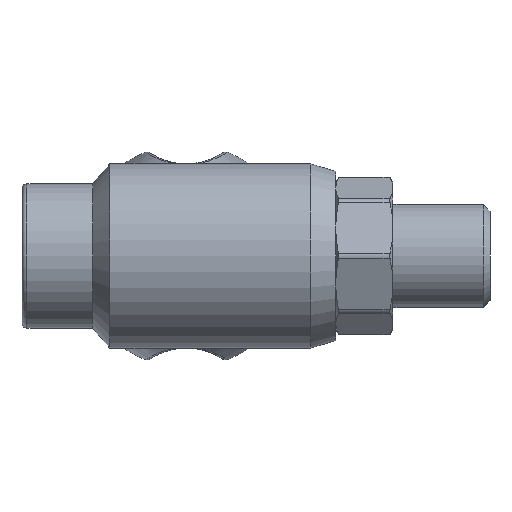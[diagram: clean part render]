
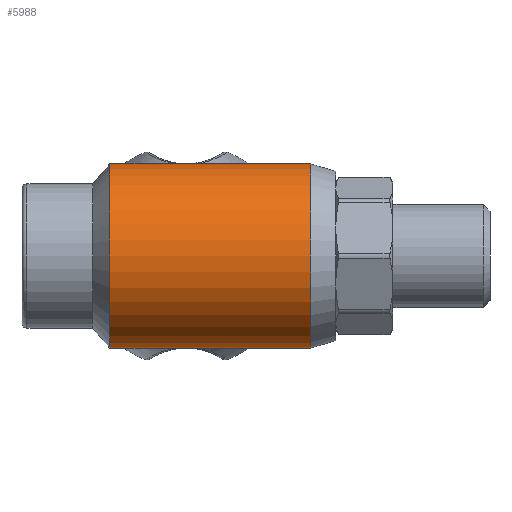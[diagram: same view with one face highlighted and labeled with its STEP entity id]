
A CAD part, front view. The second image highlights one B-rep face of the part: STEP entity #5988.
In plain terms, the highlighted cylindrical face has radius 18.5 mm (diameter 37 mm), a full revolution.
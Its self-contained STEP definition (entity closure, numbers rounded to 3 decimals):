
#813=LINE('',#12136,#1269);
#814=LINE('',#12167,#1270);
#1269=VECTOR('',#8021,18.5);
#1270=VECTOR('',#8022,18.5);
#1334=CYLINDRICAL_SURFACE('',#6522,18.5);
#1438=B_SPLINE_CURVE_WITH_KNOTS('',3,(#12138,#12139,#12140,#12141,#12142,
#12143,#12144,#12145,#12146,#12147,#12148,#12149,#12150,#12151),
 .UNSPECIFIED.,.F.,.F.,(4,2,2,2,2,2,4),(6.994,7.282,
7.569,8.144,8.735,9.03,9.326),
 .UNSPECIFIED.);
#1439=B_SPLINE_CURVE_WITH_KNOTS('',3,(#12153,#12154,#12155,#12156,#12157,
#12158,#12159,#12160,#12161,#12162,#12163,#12164,#12165,#12166),
 .UNSPECIFIED.,.F.,.F.,(4,2,2,2,2,2,4),(0.,0.295,0.591,
1.182,1.757,2.044,2.331),
 .UNSPECIFIED.);
#1440=B_SPLINE_CURVE_WITH_KNOTS('',3,(#12168,#12169,#12170,#12171,#12172,
#12173,#12174,#12175,#12176,#12177,#12178,#12179,#12180,#12181,#12182,#12183,
#12184,#12185,#12186,#12187,#12188,#12189,#12190,#12191,#12192,#12193),
 .UNSPECIFIED.,.F.,.F.,(4,2,2,2,2,2,2,2,2,2,2,2,4),(2.331,2.619,
2.906,3.481,4.072,4.367,4.663,
4.958,5.254,5.845,6.419,6.707,
6.994),.UNSPECIFIED.);
#1732=FACE_OUTER_BOUND('',#2108,.T.);
#2108=EDGE_LOOP('',(#5442,#5443,#5444,#5445,#5446,#5447,#5448,#5449,#5450,
#5451,#5452));
#2364=CIRCLE('',#6520,18.5);
#2365=CIRCLE('',#6521,18.5);
#2366=CIRCLE('',#6523,18.5);
#2367=CIRCLE('',#6524,18.5);
#2974=VERTEX_POINT('',#12125);
#2975=VERTEX_POINT('',#12126);
#2976=VERTEX_POINT('',#12131);
#2977=VERTEX_POINT('',#12132);
#2978=VERTEX_POINT('',#12135);
#2979=VERTEX_POINT('',#12137);
#2980=VERTEX_POINT('',#12152);
#3819=EDGE_CURVE('',#2974,#2975,#2364,.T.);
#3820=EDGE_CURVE('',#2975,#2974,#2365,.T.);
#3822=EDGE_CURVE('',#2976,#2977,#2366,.T.);
#3823=EDGE_CURVE('',#2977,#2976,#2367,.T.);
#3824=EDGE_CURVE('',#2977,#2978,#813,.T.);
#3825=EDGE_CURVE('',#2978,#2979,#1438,.T.);
#3826=EDGE_CURVE('',#2979,#2980,#1439,.T.);
#3827=EDGE_CURVE('',#2980,#2975,#814,.T.);
#3828=EDGE_CURVE('',#2980,#2978,#1440,.T.);
#5442=ORIENTED_EDGE('',*,*,#3822,.F.);
#5443=ORIENTED_EDGE('',*,*,#3823,.F.);
#5444=ORIENTED_EDGE('',*,*,#3824,.T.);
#5445=ORIENTED_EDGE('',*,*,#3825,.T.);
#5446=ORIENTED_EDGE('',*,*,#3826,.T.);
#5447=ORIENTED_EDGE('',*,*,#3827,.T.);
#5448=ORIENTED_EDGE('',*,*,#3820,.T.);
#5449=ORIENTED_EDGE('',*,*,#3819,.T.);
#5450=ORIENTED_EDGE('',*,*,#3827,.F.);
#5451=ORIENTED_EDGE('',*,*,#3828,.T.);
#5452=ORIENTED_EDGE('',*,*,#3824,.F.);
#5988=ADVANCED_FACE('',(#1732),#1334,.T.);
#6520=AXIS2_PLACEMENT_3D('',#12127,#8010,#8011);
#6521=AXIS2_PLACEMENT_3D('',#12128,#8012,#8013);
#6522=AXIS2_PLACEMENT_3D('',#12130,#8015,#8016);
#6523=AXIS2_PLACEMENT_3D('',#12133,#8017,#8018);
#6524=AXIS2_PLACEMENT_3D('',#12134,#8019,#8020);
#8010=DIRECTION('center_axis',(-1.,0.,0.));
#8011=DIRECTION('ref_axis',(0.,0.,1.));
#8012=DIRECTION('center_axis',(-1.,0.,0.));
#8013=DIRECTION('ref_axis',(0.,0.,1.));
#8015=DIRECTION('center_axis',(-1.,0.,0.));
#8016=DIRECTION('ref_axis',(0.,-1.,0.));
#8017=DIRECTION('center_axis',(-1.,0.,0.));
#8018=DIRECTION('ref_axis',(0.,0.,1.));
#8019=DIRECTION('center_axis',(-1.,0.,0.));
#8020=DIRECTION('ref_axis',(0.,0.,1.));
#8021=DIRECTION('',(1.,0.,0.));
#8022=DIRECTION('',(1.,0.,0.));
#12125=CARTESIAN_POINT('',(25.,-18.5,0.));
#12126=CARTESIAN_POINT('',(25.,18.5,0.));
#12127=CARTESIAN_POINT('Origin',(25.,0.,0.));
#12128=CARTESIAN_POINT('Origin',(25.,0.,0.));
#12130=CARTESIAN_POINT('Origin',(4.827,0.,0.));
#12131=CARTESIAN_POINT('',(-15.346,-18.5,0.));
#12132=CARTESIAN_POINT('',(-15.346,18.5,0.));
#12133=CARTESIAN_POINT('Origin',(-15.346,0.,0.));
#12134=CARTESIAN_POINT('Origin',(-15.346,0.,0.));
#12135=CARTESIAN_POINT('',(-14.5,18.5,0.));
#12136=CARTESIAN_POINT('',(4.827,18.5,0.));
#12137=CARTESIAN_POINT('',(0.,11.489,-14.5));
#12138=CARTESIAN_POINT('Ctrl Pts',(-14.5,18.5,0.));
#12139=CARTESIAN_POINT('Ctrl Pts',(-14.5,18.5,-0.958));
#12140=CARTESIAN_POINT('Ctrl Pts',(-14.404,18.424,-1.935));
#12141=CARTESIAN_POINT('Ctrl Pts',(-14.013,18.121,-3.851));
#12142=CARTESIAN_POINT('Ctrl Pts',(-13.72,17.894,-4.79));
#12143=CARTESIAN_POINT('Ctrl Pts',(-12.586,17.034,-7.455));
#12144=CARTESIAN_POINT('Ctrl Pts',(-11.479,16.215,-9.027));
#12145=CARTESIAN_POINT('Ctrl Pts',(-8.993,14.56,-11.513));
#12146=CARTESIAN_POINT('Ctrl Pts',(-7.423,13.588,-12.601));
#12147=CARTESIAN_POINT('Ctrl Pts',(-4.794,12.424,-13.718));
#12148=CARTESIAN_POINT('Ctrl Pts',(-3.87,12.088,-14.008));
#12149=CARTESIAN_POINT('Ctrl Pts',(-1.966,11.62,-14.399));
#12150=CARTESIAN_POINT('Ctrl Pts',(-0.985,11.489,
-14.5));
#12151=CARTESIAN_POINT('Ctrl Pts',(0.,11.489,
-14.5));
#12152=CARTESIAN_POINT('',(14.5,18.5,0.));
#12153=CARTESIAN_POINT('Ctrl Pts',(0.,11.489,
-14.5));
#12154=CARTESIAN_POINT('Ctrl Pts',(0.985,11.489,-14.5));
#12155=CARTESIAN_POINT('Ctrl Pts',(1.966,11.62,-14.399));
#12156=CARTESIAN_POINT('Ctrl Pts',(3.87,12.088,-14.008));
#12157=CARTESIAN_POINT('Ctrl Pts',(4.794,12.424,-13.718));
#12158=CARTESIAN_POINT('Ctrl Pts',(7.423,13.588,-12.601));
#12159=CARTESIAN_POINT('Ctrl Pts',(8.993,14.56,-11.513));
#12160=CARTESIAN_POINT('Ctrl Pts',(11.479,16.215,-9.027));
#12161=CARTESIAN_POINT('Ctrl Pts',(12.586,17.034,-7.455));
#12162=CARTESIAN_POINT('Ctrl Pts',(13.72,17.894,-4.79));
#12163=CARTESIAN_POINT('Ctrl Pts',(14.013,18.121,-3.851));
#12164=CARTESIAN_POINT('Ctrl Pts',(14.404,18.424,-1.935));
#12165=CARTESIAN_POINT('Ctrl Pts',(14.5,18.5,-0.958));
#12166=CARTESIAN_POINT('Ctrl Pts',(14.5,18.5,0.));
#12167=CARTESIAN_POINT('',(4.827,18.5,0.));
#12168=CARTESIAN_POINT('Ctrl Pts',(14.5,18.5,0.));
#12169=CARTESIAN_POINT('Ctrl Pts',(14.5,18.5,0.958));
#12170=CARTESIAN_POINT('Ctrl Pts',(14.404,18.424,1.935));
#12171=CARTESIAN_POINT('Ctrl Pts',(14.013,18.121,3.851));
#12172=CARTESIAN_POINT('Ctrl Pts',(13.72,17.894,4.79));
#12173=CARTESIAN_POINT('Ctrl Pts',(12.586,17.034,7.455));
#12174=CARTESIAN_POINT('Ctrl Pts',(11.479,16.215,9.027));
#12175=CARTESIAN_POINT('Ctrl Pts',(8.993,14.56,11.513));
#12176=CARTESIAN_POINT('Ctrl Pts',(7.423,13.588,12.601));
#12177=CARTESIAN_POINT('Ctrl Pts',(4.794,12.424,13.718));
#12178=CARTESIAN_POINT('Ctrl Pts',(3.87,12.088,14.008));
#12179=CARTESIAN_POINT('Ctrl Pts',(1.966,11.62,14.399));
#12180=CARTESIAN_POINT('Ctrl Pts',(0.985,11.489,14.5));
#12181=CARTESIAN_POINT('Ctrl Pts',(-0.985,11.489,
14.5));
#12182=CARTESIAN_POINT('Ctrl Pts',(-1.966,11.62,14.399));
#12183=CARTESIAN_POINT('Ctrl Pts',(-3.87,12.088,14.008));
#12184=CARTESIAN_POINT('Ctrl Pts',(-4.794,12.424,13.718));
#12185=CARTESIAN_POINT('Ctrl Pts',(-7.423,13.588,12.601));
#12186=CARTESIAN_POINT('Ctrl Pts',(-8.993,14.56,11.513));
#12187=CARTESIAN_POINT('Ctrl Pts',(-11.479,16.215,9.027));
#12188=CARTESIAN_POINT('Ctrl Pts',(-12.586,17.034,7.455));
#12189=CARTESIAN_POINT('Ctrl Pts',(-13.72,17.894,4.79));
#12190=CARTESIAN_POINT('Ctrl Pts',(-14.013,18.121,3.851));
#12191=CARTESIAN_POINT('Ctrl Pts',(-14.404,18.424,1.935));
#12192=CARTESIAN_POINT('Ctrl Pts',(-14.5,18.5,0.958));
#12193=CARTESIAN_POINT('Ctrl Pts',(-14.5,18.5,0.));
